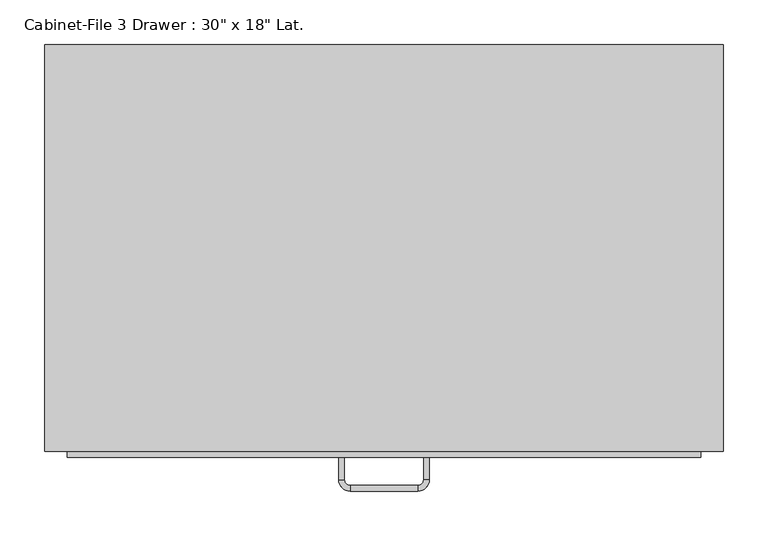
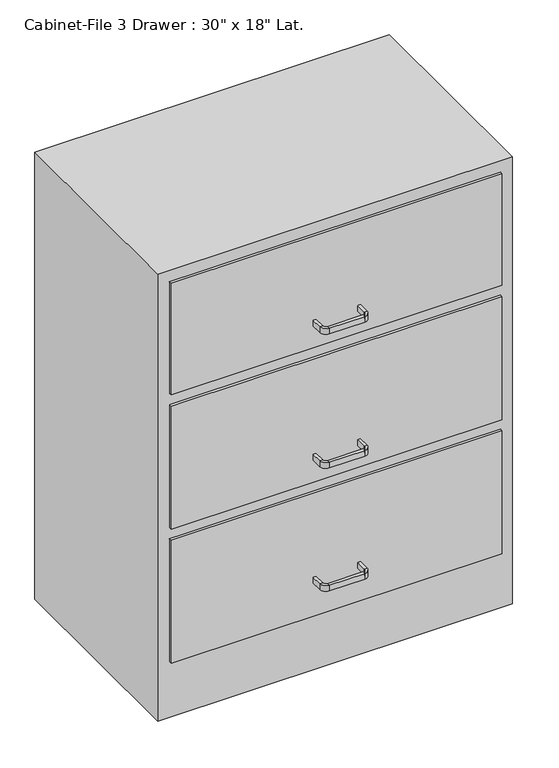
"""IFC4 building model written with IfcOpenShell, lengths in millimetres: furniture geometry."""

from ifc_helpers import new_model, si_unit, frame, origin, origin_with_axes, place, context, project, spatial, polyline, circle_curve, outline, extrude, source, transform, mapped, element, save
from ifc_brep_helpers import plane_surface, cylinder_surface, revolved_surface, advanced_brep


def furniture_91e73996(model_context):
    return source(origin(), model_context, "Body", "SolidModel", [
        extrude(outline(polyline([(253.103553, 86.4656999), (253.103553, -370.7343001), (-508.896447, -370.7343001), (-508.896447, 86.4656999), (253.103553, 86.4656999)])), origin_with_axes(), (0.0, 0.0, 1.0), 1016.0),
        extrude(outline(polyline([(227.703553, -377.0843001), (-483.496447, -377.0843001), (-483.496447, -370.7343001), (227.703553, -370.7343001), (227.703553, -377.0843001)])), frame((0.0, 0.0, 736.6), z_axis=(0.0, 0.0, 1.0), x_axis=(1.0, 0.0, 0.0)), (0.0, 0.0, 1.0), 254.0),
        extrude(outline(polyline([(227.703553, -377.0843001), (-483.496447, -377.0843001), (-483.496447, -370.7343001), (227.703553, -370.7343001), (227.703553, -377.0843001)])), frame((0.0, 0.0, 431.8), z_axis=(0.0, 0.0, 1.0), x_axis=(1.0, 0.0, 0.0)), (0.0, 0.0, 1.0), 279.4),
        extrude(outline(polyline([(227.703553, -377.0843001), (-483.496447, -377.0843001), (-483.496447, -370.7343001), (227.703553, -370.7343001), (227.703553, -377.0843001)])), frame((0.0, 0.0, 127.0), z_axis=(0.0, 0.0, 1.0), x_axis=(1.0, 0.0, 0.0)), (0.0, 0.0, 1.0), 279.4),
        advanced_brep(
        [(-172.346447, -377.0843001, 203.2), (-178.696447, -377.0843001, 203.2), (-178.696447, -377.0843001, 215.9), (-172.346447, -377.0843001, 215.9), (-172.346447, -402.4843001, 203.2), (-178.696447, -402.4843001, 203.2), (-178.696447, -402.4843001, 215.9), (-172.346447, -402.4843001, 215.9), (-165.996447, -415.1843001, 203.2), (-165.996447, -408.8343001, 203.2), (-165.996447, -415.1843001, 215.9), (-165.996447, -408.8343001, 215.9), (-89.796447, -408.8343001, 203.2), (-89.796447, -415.1843001, 203.2), (-89.796447, -415.1843001, 215.9), (-89.796447, -408.8343001, 215.9), (-77.096447, -402.4843001, 203.2), (-83.446447, -402.4843001, 203.2), (-77.096447, -402.4843001, 215.9), (-83.446447, -402.4843001, 215.9), (-83.446447, -377.0843001, 203.2), (-83.446447, -377.0843001, 215.9), (-77.096447, -377.0843001, 215.9), (-77.096447, -377.0843001, 203.2)],
        [
            (0, 1),
            (1, 2),
            (2, 3),
            (3, 0),
            (0, 4),
            (4, 5),
            (5, 1),
            (5, 6),
            (6, 2),
            (6, 7),
            (7, 3),
            (7, 4),
            (8, 5, circle_curve(frame((-165.996447, -402.4843001, 203.2), z_axis=(0.0, 0.0, -1.0), x_axis=(-1.0, 0.0, 0.0)), 12.7)),
            (4, 9, circle_curve(frame((-165.996447, -402.4843001, 203.2), z_axis=(0.0, 0.0, 1.0), x_axis=(-1.0, 0.0, 0.0)), 6.35)),
            (9, 8),
            (10, 6, circle_curve(frame((-165.996447, -402.4843001, 215.9), z_axis=(0.0, 0.0, -1.0), x_axis=(-1.0, 0.0, 0.0)), 12.7)),
            (8, 10),
            (11, 7, circle_curve(frame((-165.996447, -402.4843001, 215.9), z_axis=(0.0, 0.0, -1.0), x_axis=(-1.0, 0.0, 0.0)), 6.35)),
            (10, 11),
            (11, 9),
            (9, 12),
            (12, 13),
            (13, 8),
            (13, 14),
            (14, 10),
            (14, 15),
            (15, 11),
            (15, 12),
            (16, 13, circle_curve(frame((-89.796447, -402.4843001, 203.2), z_axis=(0.0, 0.0, -1.0), x_axis=(0.0, -1.0, 0.0)), 12.7)),
            (12, 17, circle_curve(frame((-89.796447, -402.4843001, 203.2), z_axis=(0.0, 0.0, 1.0), x_axis=(0.0, -1.0, 0.0)), 6.35)),
            (17, 16),
            (18, 14, circle_curve(frame((-89.796447, -402.4843001, 215.9), z_axis=(0.0, 0.0, -1.0), x_axis=(0.0, -1.0, 0.0)), 12.7)),
            (16, 18),
            (19, 15, circle_curve(frame((-89.796447, -402.4843001, 215.9), z_axis=(0.0, 0.0, -1.0), x_axis=(0.0, -1.0, 0.0)), 6.35)),
            (18, 19),
            (19, 17),
            (20, 21),
            (21, 22),
            (22, 23),
            (23, 20),
            (17, 20),
            (23, 16),
            (22, 18),
            (21, 19),
        ],
        [
            plane_surface(frame((-978.8216451, -377.0843001, 0.0), z_axis=(0.0, 1.0, 0.0), x_axis=(0.0, 0.0, -1.0))),
            plane_surface(frame((-172.346447, -377.0843001, 203.2), z_axis=(0.0, 0.0, -1.0), x_axis=(0.0, -1.0, 0.0))),
            plane_surface(frame((-178.696447, -377.0843001, 203.2), z_axis=(-1.0, 0.0, 0.0), x_axis=(0.0, -1.0, 0.0))),
            plane_surface(frame((-178.696447, -377.0843001, 215.9), z_axis=(0.0, 0.0, 1.0), x_axis=(0.0, -1.0, 0.0))),
            plane_surface(frame((-172.346447, -377.0843001, 215.9), z_axis=(1.0, 0.0, 0.0), x_axis=(0.0, -1.0, 0.0))),
            plane_surface(frame((-165.996447, -402.4843001, 203.2), z_axis=(0.0, 0.0, -1.0), x_axis=(-1.0, 0.0, 0.0))),
            cylinder_surface(frame((-165.996447, -402.4843001, 0.0), z_axis=(0.0, 0.0, 1.0), x_axis=(-1.0, 0.0, 0.0)), 12.7),
            plane_surface(frame((-165.996447, -402.4843001, 215.9), z_axis=(0.0, 0.0, 1.0), x_axis=(-1.0, 0.0, 0.0))),
            revolved_surface(polyline([(-172.34644699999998, -402.4843001, 215.9), (-172.34644699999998, -402.4843001, 203.2)]), (-165.996447, -402.4843001, 0.0), (0.0, 0.0, 1.0)),
            plane_surface(frame((-165.996447, -408.8343001, 203.2), z_axis=(0.0, 0.0, -1.0), x_axis=(1.0, 0.0, 0.0))),
            plane_surface(frame((-165.996447, -415.1843001, 203.2), z_axis=(0.0, -1.0, 0.0), x_axis=(1.0, 0.0, 0.0))),
            plane_surface(frame((-165.996447, -415.1843001, 215.9), z_axis=(0.0, 0.0, 1.0), x_axis=(1.0, 0.0, 0.0))),
            plane_surface(frame((-165.996447, -408.8343001, 215.9), z_axis=(0.0, 1.0, 0.0), x_axis=(1.0, 0.0, 0.0))),
            plane_surface(frame((-89.796447, -402.4843001, 203.2), z_axis=(0.0, 0.0, -1.0), x_axis=(0.0, -1.0, 0.0))),
            cylinder_surface(frame((-89.796447, -402.4843001, 0.0), z_axis=(0.0, 0.0, 1.0), x_axis=(0.0, -1.0, 0.0)), 12.7),
            plane_surface(frame((-89.796447, -402.4843001, 215.9), z_axis=(0.0, 0.0, 1.0), x_axis=(0.0, -1.0, 0.0))),
            revolved_surface(polyline([(-89.796447, -408.8343001, 215.9), (-89.796447, -408.8343001, 203.2)]), (-89.796447, -402.4843001, 0.0), (0.0, 0.0, 1.0)),
            plane_surface(frame((-877.2216451, -377.0843001, 0.0), z_axis=(0.0, 1.0, 0.0), x_axis=(0.0, 0.0, 1.0))),
            plane_surface(frame((-83.446447, -402.4843001, 203.2), z_axis=(0.0, 0.0, -1.0), x_axis=(0.0, 1.0, 0.0))),
            plane_surface(frame((-77.096447, -402.4843001, 203.2), z_axis=(1.0, 0.0, 0.0), x_axis=(0.0, 1.0, 0.0))),
            plane_surface(frame((-77.096447, -402.4843001, 215.9), z_axis=(0.0, 0.0, 1.0), x_axis=(0.0, 1.0, 0.0))),
            plane_surface(frame((-83.446447, -402.4843001, 215.9), z_axis=(-1.0, 0.0, 0.0), x_axis=(0.0, 1.0, 0.0))),
        ],
        [
            (0, [[1, 2, 3, 4]]),
            (1, [[-1, 5, 6, 7]]),
            (2, [[-2, -7, 8, 9]]),
            (3, [[-3, -9, 10, 11]]),
            (4, [[-4, -11, 12, -5]]),
            (5, [[13, -6, 14, 15]]),
            (6, [[16, -8, -13, 17]]),
            (7, [[18, -10, -16, 19]]),
            (8, [[-14, -12, -18, 20]]),
            (9, [[-15, 21, 22, 23]]),
            (10, [[-17, -23, 24, 25]]),
            (11, [[-19, -25, 26, 27]]),
            (12, [[-20, -27, 28, -21]]),
            (13, [[29, -22, 30, 31]]),
            (14, [[32, -24, -29, 33]]),
            (15, [[34, -26, -32, 35]]),
            (16, [[-30, -28, -34, 36]]),
            (17, [[37, 38, 39, 40]]),
            (18, [[-31, 41, -40, 42]]),
            (19, [[-33, -42, -39, 43]]),
            (20, [[-35, -43, -38, 44]]),
            (21, [[-36, -44, -37, -41]]),
        ],
    ),
        advanced_brep(
        [(-172.346447, -377.0843001, 482.6), (-178.696447, -377.0843001, 482.6), (-178.696447, -377.0843001, 495.3), (-172.346447, -377.0843001, 495.3), (-172.346447, -402.4843001, 482.6), (-178.696447, -402.4843001, 482.6), (-178.696447, -402.4843001, 495.3), (-172.346447, -402.4843001, 495.3), (-165.996447, -415.1843001, 482.6), (-165.996447, -408.8343001, 482.6), (-165.996447, -415.1843001, 495.3), (-165.996447, -408.8343001, 495.3), (-89.796447, -408.8343001, 482.6), (-89.796447, -415.1843001, 482.6), (-89.796447, -415.1843001, 495.3), (-89.796447, -408.8343001, 495.3), (-77.096447, -402.4843001, 482.6), (-83.446447, -402.4843001, 482.6), (-77.096447, -402.4843001, 495.3), (-83.446447, -402.4843001, 495.3), (-83.446447, -377.0843001, 482.6), (-83.446447, -377.0843001, 495.3), (-77.096447, -377.0843001, 495.3), (-77.096447, -377.0843001, 482.6)],
        [
            (0, 1),
            (1, 2),
            (2, 3),
            (3, 0),
            (0, 4),
            (4, 5),
            (5, 1),
            (5, 6),
            (6, 2),
            (6, 7),
            (7, 3),
            (7, 4),
            (8, 5, circle_curve(frame((-165.996447, -402.4843001, 482.6), z_axis=(0.0, 0.0, -1.0), x_axis=(-1.0, 0.0, 0.0)), 12.7)),
            (4, 9, circle_curve(frame((-165.996447, -402.4843001, 482.6), z_axis=(0.0, 0.0, 1.0), x_axis=(-1.0, 0.0, 0.0)), 6.35)),
            (9, 8),
            (10, 6, circle_curve(frame((-165.996447, -402.4843001, 495.3), z_axis=(0.0, 0.0, -1.0), x_axis=(-1.0, 0.0, 0.0)), 12.7)),
            (8, 10),
            (11, 7, circle_curve(frame((-165.996447, -402.4843001, 495.3), z_axis=(0.0, 0.0, -1.0), x_axis=(-1.0, 0.0, 0.0)), 6.35)),
            (10, 11),
            (11, 9),
            (9, 12),
            (12, 13),
            (13, 8),
            (13, 14),
            (14, 10),
            (14, 15),
            (15, 11),
            (15, 12),
            (16, 13, circle_curve(frame((-89.796447, -402.4843001, 482.6), z_axis=(0.0, 0.0, -1.0), x_axis=(0.0, -1.0, 0.0)), 12.7)),
            (12, 17, circle_curve(frame((-89.796447, -402.4843001, 482.6), z_axis=(0.0, 0.0, 1.0), x_axis=(0.0, -1.0, 0.0)), 6.35)),
            (17, 16),
            (18, 14, circle_curve(frame((-89.796447, -402.4843001, 495.3), z_axis=(0.0, 0.0, -1.0), x_axis=(0.0, -1.0, 0.0)), 12.7)),
            (16, 18),
            (19, 15, circle_curve(frame((-89.796447, -402.4843001, 495.3), z_axis=(0.0, 0.0, -1.0), x_axis=(0.0, -1.0, 0.0)), 6.35)),
            (18, 19),
            (19, 17),
            (20, 21),
            (21, 22),
            (22, 23),
            (23, 20),
            (17, 20),
            (23, 16),
            (22, 18),
            (21, 19),
        ],
        [
            plane_surface(frame((-978.8216451, -377.0843001, 0.0), z_axis=(0.0, 1.0, 0.0), x_axis=(0.0, 0.0, -1.0))),
            plane_surface(frame((-172.346447, -377.0843001, 482.6), z_axis=(0.0, 0.0, -1.0), x_axis=(0.0, -1.0, 0.0))),
            plane_surface(frame((-178.696447, -377.0843001, 482.6), z_axis=(-1.0, 0.0, 0.0), x_axis=(0.0, -1.0, 0.0))),
            plane_surface(frame((-178.696447, -377.0843001, 495.3), z_axis=(0.0, 0.0, 1.0), x_axis=(0.0, -1.0, 0.0))),
            plane_surface(frame((-172.346447, -377.0843001, 495.3), z_axis=(1.0, 0.0, 0.0), x_axis=(0.0, -1.0, 0.0))),
            plane_surface(frame((-165.996447, -402.4843001, 482.6), z_axis=(0.0, 0.0, -1.0), x_axis=(-1.0, 0.0, 0.0))),
            cylinder_surface(frame((-165.996447, -402.4843001, 0.0), z_axis=(0.0, 0.0, 1.0), x_axis=(-1.0, 0.0, 0.0)), 12.7),
            plane_surface(frame((-165.996447, -402.4843001, 495.3), z_axis=(0.0, 0.0, 1.0), x_axis=(-1.0, 0.0, 0.0))),
            revolved_surface(polyline([(-172.34644699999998, -402.4843001, 495.3), (-172.34644699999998, -402.4843001, 482.6)]), (-165.996447, -402.4843001, 0.0), (0.0, 0.0, 1.0)),
            plane_surface(frame((-165.996447, -408.8343001, 482.6), z_axis=(0.0, 0.0, -1.0), x_axis=(1.0, 0.0, 0.0))),
            plane_surface(frame((-165.996447, -415.1843001, 482.6), z_axis=(0.0, -1.0, 0.0), x_axis=(1.0, 0.0, 0.0))),
            plane_surface(frame((-165.996447, -415.1843001, 495.3), z_axis=(0.0, 0.0, 1.0), x_axis=(1.0, 0.0, 0.0))),
            plane_surface(frame((-165.996447, -408.8343001, 495.3), z_axis=(0.0, 1.0, 0.0), x_axis=(1.0, 0.0, 0.0))),
            plane_surface(frame((-89.796447, -402.4843001, 482.6), z_axis=(0.0, 0.0, -1.0), x_axis=(0.0, -1.0, 0.0))),
            cylinder_surface(frame((-89.796447, -402.4843001, 0.0), z_axis=(0.0, 0.0, 1.0), x_axis=(0.0, -1.0, 0.0)), 12.7),
            plane_surface(frame((-89.796447, -402.4843001, 495.3), z_axis=(0.0, 0.0, 1.0), x_axis=(0.0, -1.0, 0.0))),
            revolved_surface(polyline([(-89.796447, -408.8343001, 495.3), (-89.796447, -408.8343001, 482.6)]), (-89.796447, -402.4843001, 0.0), (0.0, 0.0, 1.0)),
            plane_surface(frame((-877.2216451, -377.0843001, 0.0), z_axis=(0.0, 1.0, 0.0), x_axis=(0.0, 0.0, 1.0))),
            plane_surface(frame((-83.446447, -402.4843001, 482.6), z_axis=(0.0, 0.0, -1.0), x_axis=(0.0, 1.0, 0.0))),
            plane_surface(frame((-77.096447, -402.4843001, 482.6), z_axis=(1.0, 0.0, 0.0), x_axis=(0.0, 1.0, 0.0))),
            plane_surface(frame((-77.096447, -402.4843001, 495.3), z_axis=(0.0, 0.0, 1.0), x_axis=(0.0, 1.0, 0.0))),
            plane_surface(frame((-83.446447, -402.4843001, 495.3), z_axis=(-1.0, 0.0, 0.0), x_axis=(0.0, 1.0, 0.0))),
        ],
        [
            (0, [[1, 2, 3, 4]]),
            (1, [[-1, 5, 6, 7]]),
            (2, [[-2, -7, 8, 9]]),
            (3, [[-3, -9, 10, 11]]),
            (4, [[-4, -11, 12, -5]]),
            (5, [[13, -6, 14, 15]]),
            (6, [[16, -8, -13, 17]]),
            (7, [[18, -10, -16, 19]]),
            (8, [[-14, -12, -18, 20]]),
            (9, [[-15, 21, 22, 23]]),
            (10, [[-17, -23, 24, 25]]),
            (11, [[-19, -25, 26, 27]]),
            (12, [[-20, -27, 28, -21]]),
            (13, [[29, -22, 30, 31]]),
            (14, [[32, -24, -29, 33]]),
            (15, [[34, -26, -32, 35]]),
            (16, [[-30, -28, -34, 36]]),
            (17, [[37, 38, 39, 40]]),
            (18, [[-31, 41, -40, 42]]),
            (19, [[-33, -42, -39, 43]]),
            (20, [[-35, -43, -38, 44]]),
            (21, [[-36, -44, -37, -41]]),
        ],
    ),
        advanced_brep(
        [(-172.346447, -377.0843001, 787.4), (-178.696447, -377.0843001, 787.4), (-178.696447, -377.0843001, 800.1), (-172.346447, -377.0843001, 800.1), (-172.346447, -402.4843001, 787.4), (-178.696447, -402.4843001, 787.4), (-178.696447, -402.4843001, 800.1), (-172.346447, -402.4843001, 800.1), (-165.996447, -415.1843001, 787.4), (-165.996447, -408.8343001, 787.4), (-165.996447, -415.1843001, 800.1), (-165.996447, -408.8343001, 800.1), (-89.796447, -408.8343001, 787.4), (-89.796447, -415.1843001, 787.4), (-89.796447, -415.1843001, 800.1), (-89.796447, -408.8343001, 800.1), (-77.096447, -402.4843001, 787.4), (-83.446447, -402.4843001, 787.4), (-77.096447, -402.4843001, 800.1), (-83.446447, -402.4843001, 800.1), (-83.446447, -377.0843001, 787.4), (-83.446447, -377.0843001, 800.1), (-77.096447, -377.0843001, 800.1), (-77.096447, -377.0843001, 787.4)],
        [
            (0, 1),
            (1, 2),
            (2, 3),
            (3, 0),
            (0, 4),
            (4, 5),
            (5, 1),
            (5, 6),
            (6, 2),
            (6, 7),
            (7, 3),
            (7, 4),
            (8, 5, circle_curve(frame((-165.996447, -402.4843001, 787.4), z_axis=(0.0, 0.0, -1.0), x_axis=(-1.0, 0.0, 0.0)), 12.7)),
            (4, 9, circle_curve(frame((-165.996447, -402.4843001, 787.4), z_axis=(0.0, 0.0, 1.0), x_axis=(-1.0, 0.0, 0.0)), 6.35)),
            (9, 8),
            (10, 6, circle_curve(frame((-165.996447, -402.4843001, 800.1), z_axis=(0.0, 0.0, -1.0), x_axis=(-1.0, 0.0, 0.0)), 12.7)),
            (8, 10),
            (11, 7, circle_curve(frame((-165.996447, -402.4843001, 800.1), z_axis=(0.0, 0.0, -1.0), x_axis=(-1.0, 0.0, 0.0)), 6.35)),
            (10, 11),
            (11, 9),
            (9, 12),
            (12, 13),
            (13, 8),
            (13, 14),
            (14, 10),
            (14, 15),
            (15, 11),
            (15, 12),
            (16, 13, circle_curve(frame((-89.796447, -402.4843001, 787.4), z_axis=(0.0, 0.0, -1.0), x_axis=(0.0, -1.0, 0.0)), 12.7)),
            (12, 17, circle_curve(frame((-89.796447, -402.4843001, 787.4), z_axis=(0.0, 0.0, 1.0), x_axis=(0.0, -1.0, 0.0)), 6.35)),
            (17, 16),
            (18, 14, circle_curve(frame((-89.796447, -402.4843001, 800.1), z_axis=(0.0, 0.0, -1.0), x_axis=(0.0, -1.0, 0.0)), 12.7)),
            (16, 18),
            (19, 15, circle_curve(frame((-89.796447, -402.4843001, 800.1), z_axis=(0.0, 0.0, -1.0), x_axis=(0.0, -1.0, 0.0)), 6.35)),
            (18, 19),
            (19, 17),
            (20, 21),
            (21, 22),
            (22, 23),
            (23, 20),
            (17, 20),
            (23, 16),
            (22, 18),
            (21, 19),
        ],
        [
            plane_surface(frame((-978.8216451, -377.0843001, 0.0), z_axis=(0.0, 1.0, 0.0), x_axis=(0.0, 0.0, -1.0))),
            plane_surface(frame((-172.346447, -377.0843001, 787.4), z_axis=(0.0, 0.0, -1.0), x_axis=(0.0, -1.0, 0.0))),
            plane_surface(frame((-178.696447, -377.0843001, 787.4), z_axis=(-1.0, 0.0, 0.0), x_axis=(0.0, -1.0, 0.0))),
            plane_surface(frame((-178.696447, -377.0843001, 800.1), z_axis=(0.0, 0.0, 1.0), x_axis=(0.0, -1.0, 0.0))),
            plane_surface(frame((-172.346447, -377.0843001, 800.1), z_axis=(1.0, 0.0, 0.0), x_axis=(0.0, -1.0, 0.0))),
            plane_surface(frame((-165.996447, -402.4843001, 787.4), z_axis=(0.0, 0.0, -1.0), x_axis=(-1.0, 0.0, 0.0))),
            cylinder_surface(frame((-165.996447, -402.4843001, 0.0), z_axis=(0.0, 0.0, 1.0), x_axis=(-1.0, 0.0, 0.0)), 12.7),
            plane_surface(frame((-165.996447, -402.4843001, 800.1), z_axis=(0.0, 0.0, 1.0), x_axis=(-1.0, 0.0, 0.0))),
            revolved_surface(polyline([(-172.34644699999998, -402.4843001, 800.1), (-172.34644699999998, -402.4843001, 787.4)]), (-165.996447, -402.4843001, 0.0), (0.0, 0.0, 1.0)),
            plane_surface(frame((-165.996447, -408.8343001, 787.4), z_axis=(0.0, 0.0, -1.0), x_axis=(1.0, 0.0, 0.0))),
            plane_surface(frame((-165.996447, -415.1843001, 787.4), z_axis=(0.0, -1.0, 0.0), x_axis=(1.0, 0.0, 0.0))),
            plane_surface(frame((-165.996447, -415.1843001, 800.1), z_axis=(0.0, 0.0, 1.0), x_axis=(1.0, 0.0, 0.0))),
            plane_surface(frame((-165.996447, -408.8343001, 800.1), z_axis=(0.0, 1.0, 0.0), x_axis=(1.0, 0.0, 0.0))),
            plane_surface(frame((-89.796447, -402.4843001, 787.4), z_axis=(0.0, 0.0, -1.0), x_axis=(0.0, -1.0, 0.0))),
            cylinder_surface(frame((-89.796447, -402.4843001, 0.0), z_axis=(0.0, 0.0, 1.0), x_axis=(0.0, -1.0, 0.0)), 12.7),
            plane_surface(frame((-89.796447, -402.4843001, 800.1), z_axis=(0.0, 0.0, 1.0), x_axis=(0.0, -1.0, 0.0))),
            revolved_surface(polyline([(-89.796447, -408.8343001, 800.1), (-89.796447, -408.8343001, 787.4)]), (-89.796447, -402.4843001, 0.0), (0.0, 0.0, 1.0)),
            plane_surface(frame((-877.2216451, -377.0843001, 0.0), z_axis=(0.0, 1.0, 0.0), x_axis=(0.0, 0.0, 1.0))),
            plane_surface(frame((-83.446447, -402.4843001, 787.4), z_axis=(0.0, 0.0, -1.0), x_axis=(0.0, 1.0, 0.0))),
            plane_surface(frame((-77.096447, -402.4843001, 787.4), z_axis=(1.0, 0.0, 0.0), x_axis=(0.0, 1.0, 0.0))),
            plane_surface(frame((-77.096447, -402.4843001, 800.1), z_axis=(0.0, 0.0, 1.0), x_axis=(0.0, 1.0, 0.0))),
            plane_surface(frame((-83.446447, -402.4843001, 800.1), z_axis=(-1.0, 0.0, 0.0), x_axis=(0.0, 1.0, 0.0))),
        ],
        [
            (0, [[1, 2, 3, 4]]),
            (1, [[-1, 5, 6, 7]]),
            (2, [[-2, -7, 8, 9]]),
            (3, [[-3, -9, 10, 11]]),
            (4, [[-4, -11, 12, -5]]),
            (5, [[13, -6, 14, 15]]),
            (6, [[16, -8, -13, 17]]),
            (7, [[18, -10, -16, 19]]),
            (8, [[-14, -12, -18, 20]]),
            (9, [[-15, 21, 22, 23]]),
            (10, [[-17, -23, 24, 25]]),
            (11, [[-19, -25, 26, 27]]),
            (12, [[-20, -27, 28, -21]]),
            (13, [[29, -22, 30, 31]]),
            (14, [[32, -24, -29, 33]]),
            (15, [[34, -26, -32, 35]]),
            (16, [[-30, -28, -34, 36]]),
            (17, [[37, 38, 39, 40]]),
            (18, [[-31, 41, -40, 42]]),
            (19, [[-33, -42, -39, 43]]),
            (20, [[-35, -43, -38, 44]]),
            (21, [[-36, -44, -37, -41]]),
        ],
    ),
    ])


if __name__ == "__main__":
    model = new_model("IFC4")
    model_context = context("Model", 3, world=origin())
    ifc_project = project(units=[si_unit("LENGTHUNIT", "METRE", prefix="MILLI")], contexts=[model_context])
    site = spatial("IfcSite", under=ifc_project)
    building = spatial("IfcBuilding", under=site)
    placement = place(None, origin())
    furniture_shape = furniture_91e73996(model_context)
    element("IfcFurniture", 1, ObjectType="Cabinet-File 3 Drawer : 30\" x 18\" Lat.", at=placement, inside=building, context=model_context, shape_type="MappedRepresentation", body=[
        mapped(furniture_shape, transform((0.0, 0.0, 0.0), x_axis=(1.0, 0.0, 0.0), y_axis=(0.0, 1.0, 0.0), z_axis=(0.0, 0.0, 1.0))),
    ])
    save(model, "model.ifc")
